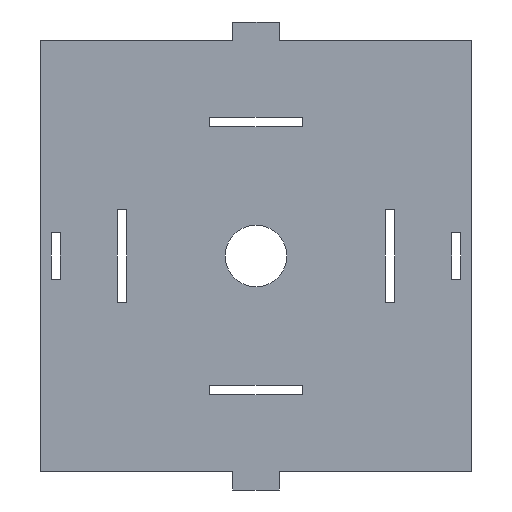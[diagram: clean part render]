
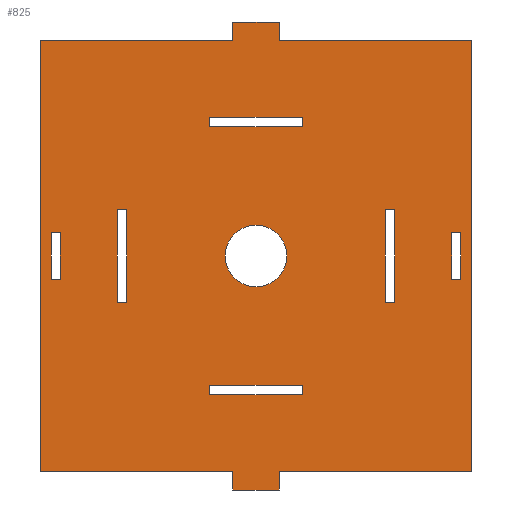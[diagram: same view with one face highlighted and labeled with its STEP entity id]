
A CAD part, front view. The second image highlights one B-rep face of the part: STEP entity #825.
In plain terms, the highlighted planar face has unit normal (0, -1, 0).
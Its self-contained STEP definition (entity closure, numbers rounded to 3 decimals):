
#22=FACE_BOUND('',#117,.T.);
#23=FACE_BOUND('',#118,.T.);
#24=FACE_BOUND('',#119,.T.);
#25=FACE_BOUND('',#120,.T.);
#26=FACE_BOUND('',#121,.T.);
#27=FACE_BOUND('',#122,.T.);
#28=FACE_BOUND('',#123,.T.);
#30=CIRCLE('',#854,10.);
#70=FACE_OUTER_BOUND('',#116,.T.);
#116=EDGE_LOOP('',(#712,#713,#714,#715,#716,#717,#718,#719,#720,#721,#722,
#723));
#117=EDGE_LOOP('',(#724,#725,#726,#727));
#118=EDGE_LOOP('',(#728,#729,#730,#731));
#119=EDGE_LOOP('',(#732,#733,#734,#735));
#120=EDGE_LOOP('',(#736,#737,#738,#739));
#121=EDGE_LOOP('',(#740,#741,#742,#743));
#122=EDGE_LOOP('',(#744));
#123=EDGE_LOOP('',(#745,#746,#747,#748));
#126=LINE('',#1082,#235);
#129=LINE('',#1088,#238);
#132=LINE('',#1094,#241);
#135=LINE('',#1098,#244);
#138=LINE('',#1106,#247);
#141=LINE('',#1112,#250);
#144=LINE('',#1118,#253);
#147=LINE('',#1122,#256);
#148=LINE('',#1126,#257);
#152=LINE('',#1134,#261);
#155=LINE('',#1140,#264);
#158=LINE('',#1145,#267);
#161=LINE('',#1156,#270);
#165=LINE('',#1164,#274);
#168=LINE('',#1170,#277);
#171=LINE('',#1175,#280);
#173=LINE('',#1180,#282);
#177=LINE('',#1188,#286);
#180=LINE('',#1194,#289);
#183=LINE('',#1199,#292);
#185=LINE('',#1204,#294);
#189=LINE('',#1212,#298);
#192=LINE('',#1218,#301);
#195=LINE('',#1223,#304);
#197=LINE('',#1228,#306);
#201=LINE('',#1236,#310);
#204=LINE('',#1242,#313);
#207=LINE('',#1248,#316);
#210=LINE('',#1254,#319);
#213=LINE('',#1260,#322);
#216=LINE('',#1266,#325);
#219=LINE('',#1272,#328);
#222=LINE('',#1278,#331);
#225=LINE('',#1284,#334);
#228=LINE('',#1290,#337);
#231=LINE('',#1295,#340);
#235=VECTOR('',#887,10.);
#238=VECTOR('',#892,10.);
#241=VECTOR('',#897,10.);
#244=VECTOR('',#902,10.);
#247=VECTOR('',#907,10.);
#250=VECTOR('',#912,10.);
#253=VECTOR('',#917,10.);
#256=VECTOR('',#922,10.);
#257=VECTOR('',#925,10.);
#261=VECTOR('',#931,10.);
#264=VECTOR('',#936,10.);
#267=VECTOR('',#941,10.);
#270=VECTOR('',#952,10.);
#274=VECTOR('',#958,10.);
#277=VECTOR('',#963,10.);
#280=VECTOR('',#968,10.);
#282=VECTOR('',#972,10.);
#286=VECTOR('',#978,10.);
#289=VECTOR('',#983,10.);
#292=VECTOR('',#988,10.);
#294=VECTOR('',#992,10.);
#298=VECTOR('',#998,10.);
#301=VECTOR('',#1003,10.);
#304=VECTOR('',#1008,10.);
#306=VECTOR('',#1012,10.);
#310=VECTOR('',#1018,10.);
#313=VECTOR('',#1023,10.);
#316=VECTOR('',#1028,10.);
#319=VECTOR('',#1033,10.);
#322=VECTOR('',#1038,10.);
#325=VECTOR('',#1043,10.);
#328=VECTOR('',#1048,10.);
#331=VECTOR('',#1053,10.);
#334=VECTOR('',#1058,10.);
#337=VECTOR('',#1063,10.);
#340=VECTOR('',#1068,10.);
#344=VERTEX_POINT('',#1079);
#345=VERTEX_POINT('',#1081);
#347=VERTEX_POINT('',#1087);
#349=VERTEX_POINT('',#1093);
#352=VERTEX_POINT('',#1103);
#353=VERTEX_POINT('',#1105);
#355=VERTEX_POINT('',#1111);
#357=VERTEX_POINT('',#1117);
#358=VERTEX_POINT('',#1124);
#359=VERTEX_POINT('',#1125);
#362=VERTEX_POINT('',#1133);
#364=VERTEX_POINT('',#1139);
#367=VERTEX_POINT('',#1150);
#368=VERTEX_POINT('',#1154);
#369=VERTEX_POINT('',#1155);
#372=VERTEX_POINT('',#1163);
#374=VERTEX_POINT('',#1169);
#376=VERTEX_POINT('',#1178);
#377=VERTEX_POINT('',#1179);
#380=VERTEX_POINT('',#1187);
#382=VERTEX_POINT('',#1193);
#384=VERTEX_POINT('',#1202);
#385=VERTEX_POINT('',#1203);
#388=VERTEX_POINT('',#1211);
#390=VERTEX_POINT('',#1217);
#392=VERTEX_POINT('',#1226);
#393=VERTEX_POINT('',#1227);
#396=VERTEX_POINT('',#1235);
#398=VERTEX_POINT('',#1241);
#400=VERTEX_POINT('',#1247);
#402=VERTEX_POINT('',#1253);
#404=VERTEX_POINT('',#1259);
#406=VERTEX_POINT('',#1265);
#408=VERTEX_POINT('',#1271);
#410=VERTEX_POINT('',#1277);
#412=VERTEX_POINT('',#1283);
#414=VERTEX_POINT('',#1289);
#418=EDGE_CURVE('',#345,#344,#126,.T.);
#421=EDGE_CURVE('',#347,#345,#129,.T.);
#424=EDGE_CURVE('',#349,#347,#132,.T.);
#427=EDGE_CURVE('',#344,#349,#135,.T.);
#430=EDGE_CURVE('',#353,#352,#138,.T.);
#433=EDGE_CURVE('',#355,#353,#141,.T.);
#436=EDGE_CURVE('',#357,#355,#144,.T.);
#439=EDGE_CURVE('',#352,#357,#147,.T.);
#440=EDGE_CURVE('',#358,#359,#148,.T.);
#444=EDGE_CURVE('',#362,#358,#152,.T.);
#447=EDGE_CURVE('',#364,#362,#155,.T.);
#450=EDGE_CURVE('',#359,#364,#158,.T.);
#454=EDGE_CURVE('',#367,#367,#30,.T.);
#455=EDGE_CURVE('',#368,#369,#161,.T.);
#459=EDGE_CURVE('',#372,#368,#165,.T.);
#462=EDGE_CURVE('',#374,#372,#168,.T.);
#465=EDGE_CURVE('',#369,#374,#171,.T.);
#467=EDGE_CURVE('',#376,#377,#173,.T.);
#471=EDGE_CURVE('',#380,#376,#177,.T.);
#474=EDGE_CURVE('',#382,#380,#180,.T.);
#477=EDGE_CURVE('',#377,#382,#183,.T.);
#479=EDGE_CURVE('',#384,#385,#185,.T.);
#483=EDGE_CURVE('',#388,#384,#189,.T.);
#486=EDGE_CURVE('',#390,#388,#192,.T.);
#489=EDGE_CURVE('',#385,#390,#195,.T.);
#491=EDGE_CURVE('',#392,#393,#197,.T.);
#495=EDGE_CURVE('',#393,#396,#201,.T.);
#498=EDGE_CURVE('',#396,#398,#204,.T.);
#501=EDGE_CURVE('',#398,#400,#207,.T.);
#504=EDGE_CURVE('',#400,#402,#210,.T.);
#507=EDGE_CURVE('',#404,#402,#213,.T.);
#510=EDGE_CURVE('',#406,#404,#216,.T.);
#513=EDGE_CURVE('',#408,#406,#219,.T.);
#516=EDGE_CURVE('',#410,#408,#222,.T.);
#519=EDGE_CURVE('',#412,#410,#225,.T.);
#522=EDGE_CURVE('',#414,#412,#228,.T.);
#525=EDGE_CURVE('',#392,#414,#231,.T.);
#712=ORIENTED_EDGE('',*,*,#525,.F.);
#713=ORIENTED_EDGE('',*,*,#491,.T.);
#714=ORIENTED_EDGE('',*,*,#495,.T.);
#715=ORIENTED_EDGE('',*,*,#498,.T.);
#716=ORIENTED_EDGE('',*,*,#501,.T.);
#717=ORIENTED_EDGE('',*,*,#504,.T.);
#718=ORIENTED_EDGE('',*,*,#507,.F.);
#719=ORIENTED_EDGE('',*,*,#510,.F.);
#720=ORIENTED_EDGE('',*,*,#513,.F.);
#721=ORIENTED_EDGE('',*,*,#516,.F.);
#722=ORIENTED_EDGE('',*,*,#519,.F.);
#723=ORIENTED_EDGE('',*,*,#522,.F.);
#724=ORIENTED_EDGE('',*,*,#424,.T.);
#725=ORIENTED_EDGE('',*,*,#421,.T.);
#726=ORIENTED_EDGE('',*,*,#418,.T.);
#727=ORIENTED_EDGE('',*,*,#427,.T.);
#728=ORIENTED_EDGE('',*,*,#436,.T.);
#729=ORIENTED_EDGE('',*,*,#433,.T.);
#730=ORIENTED_EDGE('',*,*,#430,.T.);
#731=ORIENTED_EDGE('',*,*,#439,.T.);
#732=ORIENTED_EDGE('',*,*,#489,.F.);
#733=ORIENTED_EDGE('',*,*,#479,.F.);
#734=ORIENTED_EDGE('',*,*,#483,.F.);
#735=ORIENTED_EDGE('',*,*,#486,.F.);
#736=ORIENTED_EDGE('',*,*,#477,.F.);
#737=ORIENTED_EDGE('',*,*,#467,.F.);
#738=ORIENTED_EDGE('',*,*,#471,.F.);
#739=ORIENTED_EDGE('',*,*,#474,.F.);
#740=ORIENTED_EDGE('',*,*,#465,.F.);
#741=ORIENTED_EDGE('',*,*,#455,.F.);
#742=ORIENTED_EDGE('',*,*,#459,.F.);
#743=ORIENTED_EDGE('',*,*,#462,.F.);
#744=ORIENTED_EDGE('',*,*,#454,.F.);
#745=ORIENTED_EDGE('',*,*,#450,.F.);
#746=ORIENTED_EDGE('',*,*,#440,.F.);
#747=ORIENTED_EDGE('',*,*,#444,.F.);
#748=ORIENTED_EDGE('',*,*,#447,.F.);
#786=PLANE('',#880);
#825=ADVANCED_FACE('',(#70,#22,#23,#24,#25,#26,#27,#28),#786,.F.);
#854=AXIS2_PLACEMENT_3D('',#1152,#948,#949);
#880=AXIS2_PLACEMENT_3D('',#1298,#1072,#1073);
#887=DIRECTION('',(1.,0.,0.));
#892=DIRECTION('',(0.,0.,1.));
#897=DIRECTION('',(-1.,0.,0.));
#902=DIRECTION('',(0.,0.,-1.));
#907=DIRECTION('',(1.,0.,0.));
#912=DIRECTION('',(0.,0.,1.));
#917=DIRECTION('',(-1.,0.,0.));
#922=DIRECTION('',(0.,0.,-1.));
#925=DIRECTION('',(-1.,0.,0.));
#931=DIRECTION('',(0.,0.,1.));
#936=DIRECTION('',(1.,0.,0.));
#941=DIRECTION('',(0.,0.,-1.));
#948=DIRECTION('center_axis',(0.,-1.,0.));
#949=DIRECTION('ref_axis',(1.,0.,0.));
#952=DIRECTION('',(-1.,0.,0.));
#958=DIRECTION('',(0.,0.,1.));
#963=DIRECTION('',(1.,0.,0.));
#968=DIRECTION('',(0.,0.,-1.));
#972=DIRECTION('',(-1.,0.,0.));
#978=DIRECTION('',(0.,0.,1.));
#983=DIRECTION('',(1.,0.,0.));
#988=DIRECTION('',(0.,0.,-1.));
#992=DIRECTION('',(-1.,0.,0.));
#998=DIRECTION('',(0.,0.,1.));
#1003=DIRECTION('',(1.,0.,0.));
#1008=DIRECTION('',(0.,0.,-1.));
#1012=DIRECTION('',(1.,0.,0.));
#1018=DIRECTION('',(0.,0.,-1.));
#1023=DIRECTION('',(1.,0.,0.));
#1028=DIRECTION('',(0.,0.,1.));
#1033=DIRECTION('',(1.,0.,0.));
#1038=DIRECTION('',(0.,0.,-1.));
#1043=DIRECTION('',(1.,0.,0.));
#1048=DIRECTION('',(0.,0.,-1.));
#1053=DIRECTION('',(1.,0.,0.));
#1058=DIRECTION('',(0.,0.,1.));
#1063=DIRECTION('',(1.,0.,0.));
#1068=DIRECTION('',(0.,0.,1.));
#1072=DIRECTION('center_axis',(0.,1.,0.));
#1073=DIRECTION('ref_axis',(1.,0.,0.));
#1079=CARTESIAN_POINT('',(66.5,0.,7.5));
#1081=CARTESIAN_POINT('',(63.5,0.,7.5));
#1082=CARTESIAN_POINT('',(33.25,0.,7.5));
#1087=CARTESIAN_POINT('',(63.5,0.,-7.5));
#1088=CARTESIAN_POINT('',(63.5,0.,3.75));
#1093=CARTESIAN_POINT('',(66.5,0.,-7.5));
#1094=CARTESIAN_POINT('',(31.75,0.,-7.5));
#1098=CARTESIAN_POINT('',(66.5,0.,-3.75));
#1103=CARTESIAN_POINT('',(-63.5,0.,7.5));
#1105=CARTESIAN_POINT('',(-66.5,0.,7.5));
#1106=CARTESIAN_POINT('',(-33.25,0.,7.5));
#1111=CARTESIAN_POINT('',(-66.5,0.,-7.5));
#1112=CARTESIAN_POINT('',(-66.5,0.,-3.75));
#1117=CARTESIAN_POINT('',(-63.5,0.,-7.5));
#1118=CARTESIAN_POINT('',(-31.75,0.,-7.5));
#1122=CARTESIAN_POINT('',(-63.5,0.,3.75));
#1124=CARTESIAN_POINT('',(-42.,0.,15.));
#1125=CARTESIAN_POINT('',(-45.,0.,15.));
#1126=CARTESIAN_POINT('',(-45.,0.,15.));
#1133=CARTESIAN_POINT('',(-42.,0.,-15.));
#1134=CARTESIAN_POINT('',(-42.,0.,15.));
#1139=CARTESIAN_POINT('',(-45.,0.,-15.));
#1140=CARTESIAN_POINT('',(-42.,0.,-15.));
#1145=CARTESIAN_POINT('',(-45.,0.,-15.));
#1150=CARTESIAN_POINT('',(-10.,0.,0.));
#1152=CARTESIAN_POINT('Origin',(0.,0.,0.));
#1154=CARTESIAN_POINT('',(15.,0.,-42.));
#1155=CARTESIAN_POINT('',(-15.,0.,-42.));
#1156=CARTESIAN_POINT('',(-15.,0.,-42.));
#1163=CARTESIAN_POINT('',(15.,0.,-45.));
#1164=CARTESIAN_POINT('',(15.,0.,-42.));
#1169=CARTESIAN_POINT('',(-15.,0.,-45.));
#1170=CARTESIAN_POINT('',(15.,0.,-45.));
#1175=CARTESIAN_POINT('',(-15.,0.,-45.));
#1178=CARTESIAN_POINT('',(45.,0.,15.));
#1179=CARTESIAN_POINT('',(42.,0.,15.));
#1180=CARTESIAN_POINT('',(42.,0.,15.));
#1187=CARTESIAN_POINT('',(45.,0.,-15.));
#1188=CARTESIAN_POINT('',(45.,0.,15.));
#1193=CARTESIAN_POINT('',(42.,0.,-15.));
#1194=CARTESIAN_POINT('',(45.,0.,-15.));
#1199=CARTESIAN_POINT('',(42.,0.,-15.));
#1202=CARTESIAN_POINT('',(15.,0.,45.));
#1203=CARTESIAN_POINT('',(-15.,0.,45.));
#1204=CARTESIAN_POINT('',(-15.,0.,45.));
#1211=CARTESIAN_POINT('',(15.,0.,42.));
#1212=CARTESIAN_POINT('',(15.,0.,45.));
#1217=CARTESIAN_POINT('',(-15.,0.,42.));
#1218=CARTESIAN_POINT('',(15.,0.,42.));
#1223=CARTESIAN_POINT('',(-15.,0.,42.));
#1226=CARTESIAN_POINT('',(-70.,0.,-70.));
#1227=CARTESIAN_POINT('',(-7.5,0.,-70.));
#1228=CARTESIAN_POINT('',(-70.,0.,-70.));
#1235=CARTESIAN_POINT('',(-7.5,0.,-76.));
#1236=CARTESIAN_POINT('',(-7.5,0.,-70.));
#1241=CARTESIAN_POINT('',(7.5,0.,-76.));
#1242=CARTESIAN_POINT('',(-7.5,0.,-76.));
#1247=CARTESIAN_POINT('',(7.5,0.,-70.));
#1248=CARTESIAN_POINT('',(7.5,0.,-76.));
#1253=CARTESIAN_POINT('',(70.,0.,-70.));
#1254=CARTESIAN_POINT('',(7.5,0.,-70.));
#1259=CARTESIAN_POINT('',(70.,0.,70.));
#1260=CARTESIAN_POINT('',(70.,0.,70.));
#1265=CARTESIAN_POINT('',(7.5,0.,70.));
#1266=CARTESIAN_POINT('',(7.5,0.,70.));
#1271=CARTESIAN_POINT('',(7.5,0.,76.));
#1272=CARTESIAN_POINT('',(7.5,0.,76.));
#1277=CARTESIAN_POINT('',(-7.5,0.,76.));
#1278=CARTESIAN_POINT('',(-7.5,0.,76.));
#1283=CARTESIAN_POINT('',(-7.5,0.,70.));
#1284=CARTESIAN_POINT('',(-7.5,0.,70.));
#1289=CARTESIAN_POINT('',(-70.,0.,70.));
#1290=CARTESIAN_POINT('',(-70.,0.,70.));
#1295=CARTESIAN_POINT('',(-70.,0.,-70.));
#1298=CARTESIAN_POINT('Origin',(0.,0.,0.));
